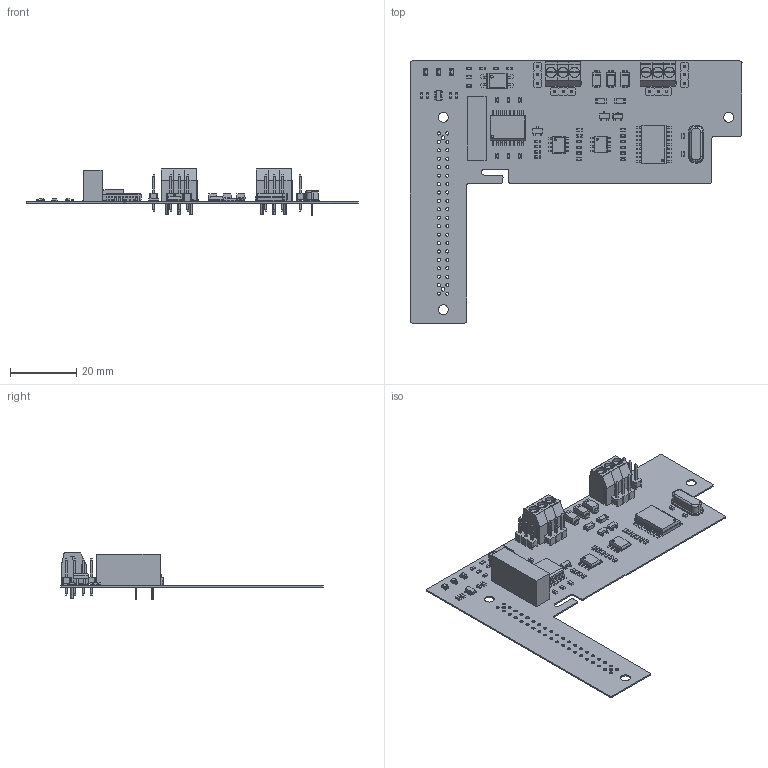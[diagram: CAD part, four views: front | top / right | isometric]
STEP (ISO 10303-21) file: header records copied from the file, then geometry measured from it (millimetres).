
FILE_DESCRIPTION(('Open CASCADE Model'),'2;1');
FILE_NAME('Open CASCADE Shape Model','2024-04-08T21:14:40',('Author'),( 'Open CASCADE'),'Open CASCADE STEP processor 6.5','Open CASCADE 6.5' ,'Unknown');
FILE_SCHEMA(('AUTOMOTIVE_DESIGN { 1 0 10303 214 1 1 1 1 }'));
Length unit declared in the file: millimetre
Products named in the file (84): PCB; Board; L_PWR1; ALSRobot-LED0805(R); C1; CAPC1608(0603); C9; U2; SW3DPS-SOT-23-5-DEFAULT; C3; C4; C5; C6; C7; C8; C10; C12; R1; RESC1608(0603); R5; R6; R7; U1; 280412176; Extruded; U6; User_Library-sop-8; Y1; User_Library-HP49US; C13; U5; User_Library-SOIC18-300; C11; C14; C15; C16; D2; SW3dPS-DO-214AC_SMA; D1; SW3DPS-SOT-23-DEFAULT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
Assembly tree (131 placements, depth 4):
  PCB
    Board
    L_PWR1
      ALSRobot-LED0805(R)
    C1
      CAPC1608(0603)
    C9
      CAPC1608(0603)
    U2
      SW3DPS-SOT-23-5-DEFAULT
    C3
      CAPC1608(0603)
    C4
      CAPC1608(0603)
    C5
      CAPC1608(0603)
    C6
      CAPC1608(0603)
    C7
      CAPC1608(0603)
    C8
      CAPC1608(0603)
    C10
      CAPC1608(0603)
    C12
      CAPC1608(0603)
    R1
      RESC1608(0603)
    R5
      RESC1608(0603)
    R6
      RESC1608(0603)
    R7
      RESC1608(0603)
    U1
      280412176
        Extruded
    U6
      User_Library-sop-8
    Y1
      User_Library-HP49US
    C13
      CAPC1608(0603)
    U5
      User_Library-SOIC18-300
    C11
      CAPC1608(0603)
    C14
      CAPC1608(0603)
    C15
      CAPC1608(0603)
    C16
      CAPC1608(0603)
    D2
      SW3dPS-DO-214AC_SMA
    D1
      SW3DPS-SOT-23-DEFAULT
    D3
      SW3dPS-DO-214AC_SMA
    D4
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Bounding box: 100.02 x 79.02 x 14 mm (x, y, z)
Volume: 5114.6 mm3; surface area: 13716.1 mm2
Topology: 152 solids, 152 shells, 5515 faces, 13892 edges, 8486 vertices
Faces by surface type: plane 3064, cylinder 1315, bspline 798, sphere 288, torus 50
Full cylindrical faces by diameter (mm): 0.65 x2, 0.9 x12, 0.95 x40, 1.1 x10, 1.3 x2
Entity records: 136088 total; most frequent: CARTESIAN_POINT 37990, DIRECTION 15177, LINE 9844, VECTOR 9844, ORIENTED_EDGE 9214, PCURVE 9214, DEFINITIONAL_REPRESENTATION 9214, EDGE_CURVE 4607
